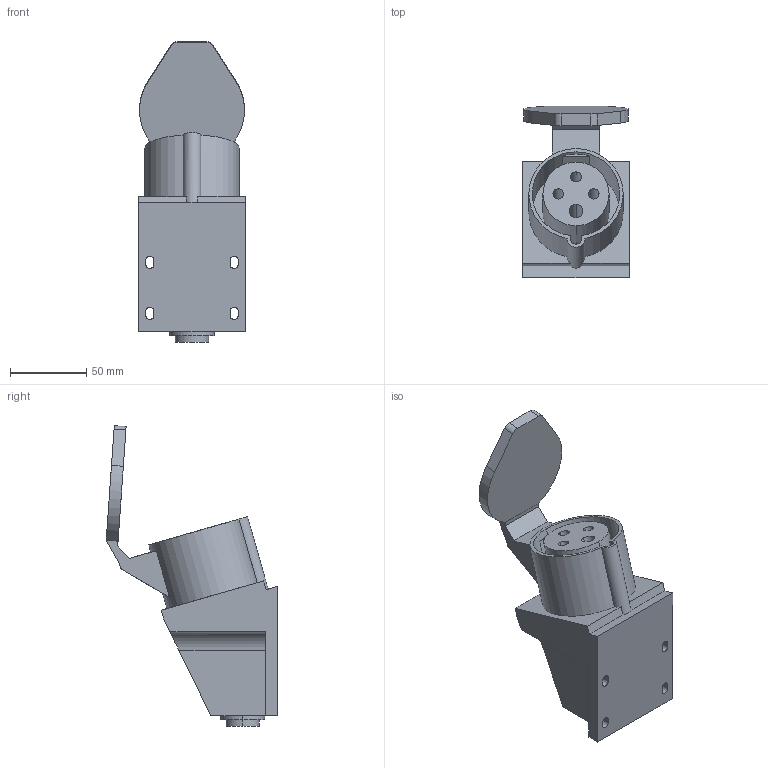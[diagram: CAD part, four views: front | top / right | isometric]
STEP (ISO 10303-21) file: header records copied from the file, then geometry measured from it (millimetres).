
FILE_DESCRIPTION (( 'STEP AP214' ), '1' );
FILE_NAME ('Ðîçåòêà äëÿ ìîíòàæà íà ïîâåðõíîñòü 124-32À-6h-380AC-3P+PE-IP44.STEP', '2023-05-26T07:21:10', ( '' ), ( '' ), 'SwSTEP 2.0', 'SolidWorks 2018', '' );
FILE_SCHEMA (( 'AUTOMOTIVE_DESIGN' ));
Length unit declared in the file: millimetre
Products named in the file (1): Ðîçåòêà äëÿ ìîíòàæà íà ïîâåðõíîñòü 124-32À-6h-380AC-3P+PE-IP44
Bounding box: 70 x 112.73 x 197.55 mm (x, y, z)
Volume: 414580.7 mm3; surface area: 70891.4 mm2
Topology: 1 solids, 1 shells, 92 faces, 242 edges, 160 vertices
Faces by surface type: plane 53, cylinder 39
Entity records: 2906 total; most frequent: CARTESIAN_POINT 513, DIRECTION 504, ORIENTED_EDGE 484, EDGE_CURVE 242, AXIS2_PLACEMENT_3D 175, VERTEX_POINT 160, VECTOR 154, LINE 154
